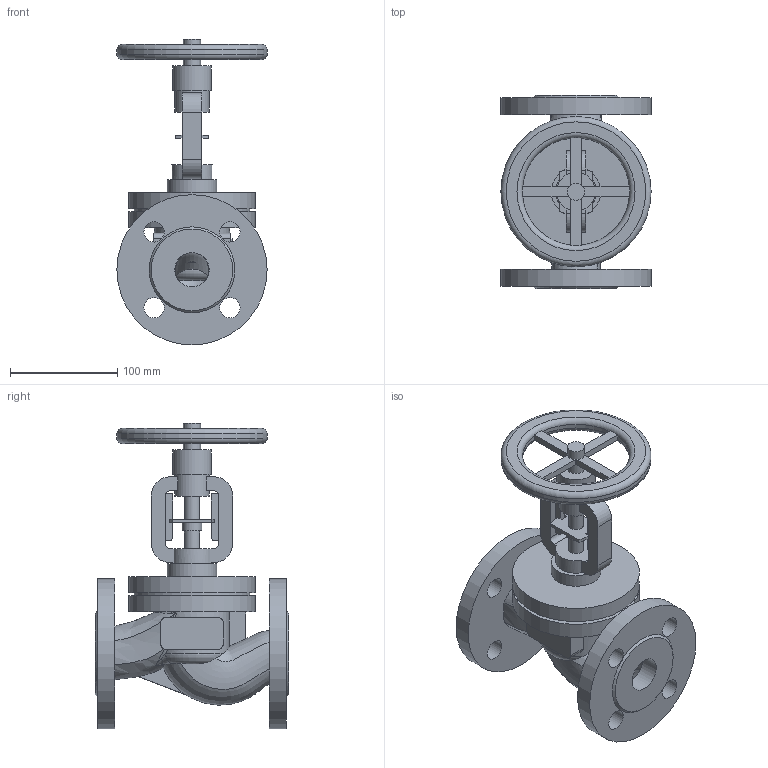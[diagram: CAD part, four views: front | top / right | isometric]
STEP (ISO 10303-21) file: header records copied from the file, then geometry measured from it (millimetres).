
FILE_DESCRIPTION(('STEP AP203'), '1');
FILE_NAME('Êëàïàí çàïîðíî-ðåãóëèðóþùèé BV2F DN32', '2026-09-22T07:51:03', ('Ýíåðãèÿ'), (''), 'ASCON STEP Converter 1.6', 'ASCON Math Kernel', '');
FILE_SCHEMA(('CONFIG_CONTROL_DESIGN'));
Length unit declared in the file: millimetre
Bounding box: 140 x 180 x 285 mm (x, y, z)
Volume: 1368884.9 mm3; surface area: 215835.3 mm2
Topology: 1 solids, 1 shells, 214 faces, 580 edges, 382 vertices
Faces by surface type: plane 109, cylinder 64, bspline 32, torus 7, cone 2
Full cylindrical faces by diameter (mm): 14 x2, 16 x1, 18 x1, 19 x8, 32 x2, 36 x1, 38 x1, 46 x1, 108 x1, 118 x2, 140 x3
Entity records: 23284 total; most frequent: CARTESIAN_POINT 16490, ORIENTED_EDGE 1094, DIRECTION 904, EDGE_CURVE 547, VERTEX_POINT 382, AXIS2_PLACEMENT_3D 346, EDGE_LOOP 289, FACE_BOUND 235
